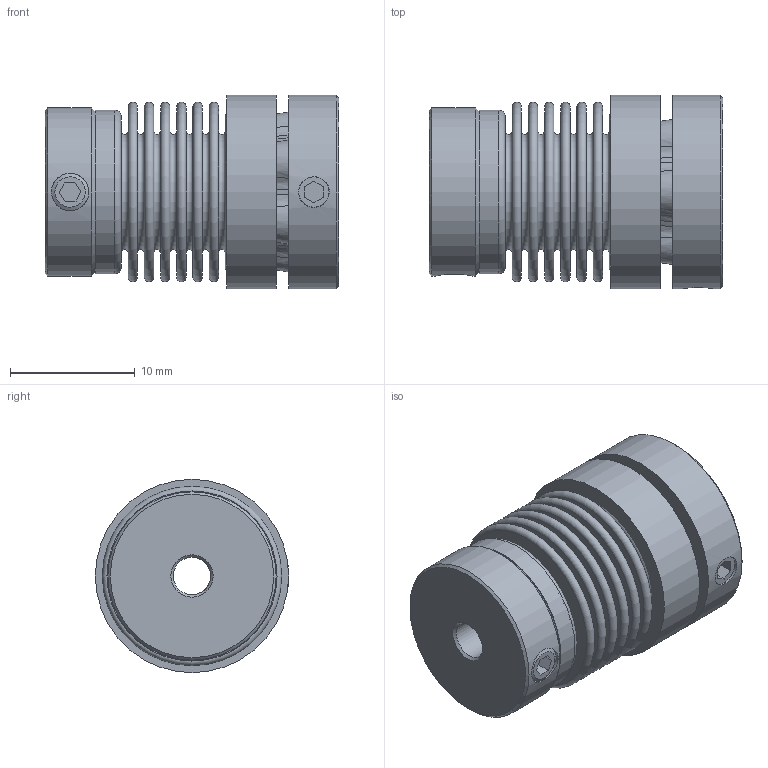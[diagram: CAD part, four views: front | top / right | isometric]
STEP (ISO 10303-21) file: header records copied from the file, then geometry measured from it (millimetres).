
FILE_DESCRIPTION( ( 'KBE1/14 - N7H8 - N14H7 - 98 Sh' ), '1' );
FILE_NAME( 'K:/Konstruktion/Fertigungszeichnungen/Metallbalgkupplung/KB1P/5-10/KB1P-10-24.stp', '14.12.2015', ( 'KBK-Antriebstechnik' ), ( 'KBK-Antriebstechnik' ), 'PSStep 16.0.42', 'Solid Edge St6', ' ' );
FILE_SCHEMA( ( 'AUTOMOTIVE_DESIGN { 1 0 10303 214 1 1 1 1 }' ) );
Length unit declared in the file: millimetre
Products named in the file (6): Assem1; Stecknabe KB1P-10; Balgaufnahme KB2P-10_für Step; MN10_Standard_2; BK10_Standard_0; Socket Set Screw Cup Point_DIN_DIN 916 - M3 x 4-N_8
Assembly tree (6 placements, depth 2):
  Assem1
    Stecknabe KB1P-10
    Balgaufnahme KB2P-10_für Step
    MN10_Standard_2
    BK10_Standard_0
    Socket Set Screw Cup Point_DIN_DIN 916 - M3 x 4-N_8  x2
Bounding box: 23.55 x 15.5 x 15.5 mm (x, y, z)
Volume: 2469.3 mm3; surface area: 5290.3 mm2
Topology: 6 solids, 6 shells, 176 faces, 376 edges, 239 vertices
Faces by surface type: cone 79, plane 53, torus 30, cylinder 14
Full cylindrical faces by diameter (mm): 2.459 x1, 3 x5, 12.9 x3, 13.1 x2, 13.5 x1, 15.5 x2
Entity records: 5724 total; most frequent: CARTESIAN_POINT 823, DIRECTION 812, ORIENTED_EDGE 566, AXIS2_PLACEMENT_3D 367, EDGE_CURVE 283, EDGE_LOOP 258, VERTEX_POINT 224, FACE_OUTER_BOUND 207
